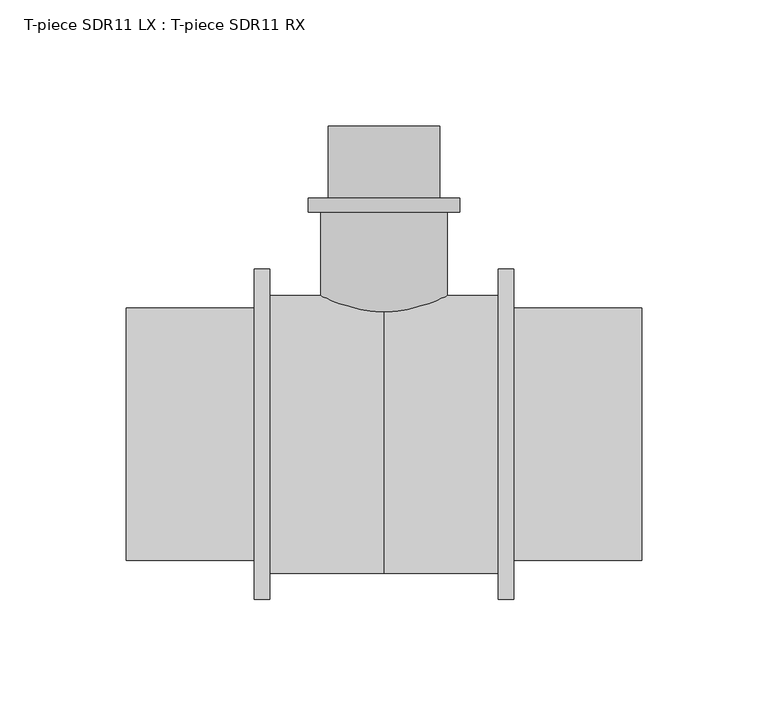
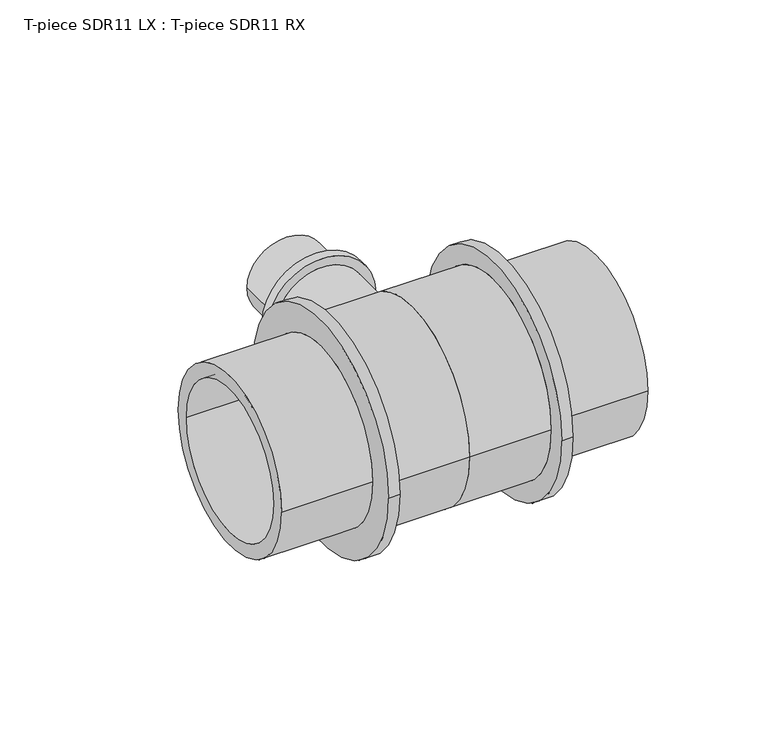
"""IFC4 building model written with IfcOpenShell, lengths in millimetres: pipe fitting geometry, T-piece SDR11 LX : T-piece SDR11 RX."""

import ifcopenshell
import ifcopenshell.guid

model = None  # the IFC model being written
_history = None  # IfcOwnerHistory: only IFC2X3 demands one
_inside = {}  # id of a spatial element -> (the spatial element, [elements in it])
_under = {}  # id of a project, library or spatial element -> (it, [spatial elements below it])
_declared = {}  # id of a project -> (the project, [libraries it declares])
_typed = {}  # id of a type object -> (the type object, [elements of that type])
_made_of = {}  # id of a material, layer set ... -> (it, [elements and type objects made of it])


def new_model(schema):
    """Start an empty IFC model of exactly this schema.

    Asked for "IFC4X3", IfcOpenShell would pick the latest addendum, in which some entities
    have other attributes; the version numbers below select the first issue.
    IFC2X3 requires an IfcOwnerHistory on every rooted entity: one is made here for all.
    """
    global model, _history
    if schema == "IFC4X3":
        model = ifcopenshell.file(schema_version=(4, 3, 0, 0))
    else:
        model = ifcopenshell.file(schema=schema)
    _inside.clear()
    _under.clear()
    _declared.clear()
    _typed.clear()
    _made_of.clear()
    _history = None
    if model.schema == "IFC2X3":
        org = make("IfcOrganization", Name="unknown")
        user = make(
            "IfcPersonAndOrganization",
            ThePerson=make("IfcPerson", FamilyName="unknown"),
            TheOrganization=org,
        )
        app = make(
            "IfcApplication",
            ApplicationDeveloper=org,
            Version="unknown",
            ApplicationFullName="unknown",
            ApplicationIdentifier="unknown",
        )
        _history = make(
            "IfcOwnerHistory",
            OwningUser=user,
            OwningApplication=app,
            ChangeAction="ADDED",
            CreationDate=0,
        )
    return model


def make(cls, **values):
    """One entity of the class cls with the attributes given. An attribute that is None is left unset."""
    return model.create_entity(
        cls, **{name: value for name, value in values.items() if value is not None}
    )


def rooted(cls, **values):
    """An entity with a GlobalId (a new one), such as an element, a storey or a relation."""
    return make(cls, GlobalId=ifcopenshell.guid.new(), OwnerHistory=_history, **values)


def si_unit(unit_type, name, prefix=None):
    """IfcSIUnit, for example si_unit("LENGTHUNIT", "METRE", prefix="MILLI")."""
    return make("IfcSIUnit", UnitType=unit_type, Prefix=prefix, Name=name)


def assignment(units):
    """IfcUnitAssignment: the units of a project."""
    return None if units is None else make("IfcUnitAssignment", Units=units)


def point(xyz):
    """IfcCartesianPoint."""
    return None if xyz is None else make("IfcCartesianPoint", Coordinates=xyz)


def direction(xyz):
    """IfcDirection."""
    return None if xyz is None else make("IfcDirection", DirectionRatios=xyz)


def frame(location, z_axis=None, x_axis=None):
    """IfcAxis2Placement3D, a coordinate frame: its origin and axes. An axis left out is left unset."""
    return make(
        "IfcAxis2Placement3D",
        Location=point(location),
        Axis=direction(z_axis),
        RefDirection=direction(x_axis),
    )


def origin():
    """The frame at (0, 0, 0) with its axes left unset."""
    return frame((0.0, 0.0, 0.0))


def place(relative_to, where):
    """IfcLocalPlacement: puts the frame where relative to a parent placement (None: the world)."""
    return make(
        "IfcLocalPlacement", PlacementRelTo=relative_to, RelativePlacement=where
    )


def context(
    kind, dimensions, precision=None, world=None, true_north=None, identifier=None
):
    """IfcGeometricRepresentationContext, for example the 3D "Model" context."""
    return make(
        "IfcGeometricRepresentationContext",
        ContextIdentifier=identifier,
        ContextType=kind,
        CoordinateSpaceDimension=dimensions,
        Precision=precision,
        WorldCoordinateSystem=world,
        TrueNorth=true_north,
    )


def project(units=None, contexts=None):
    """IfcProject with its units and contexts."""
    return rooted(
        "IfcProject",
        Name="project",
        RepresentationContexts=contexts,
        UnitsInContext=assignment(units),
    )


def spatial(cls, under=None, at=None, **own):
    """A site, building, storey or space (cls), placed at a placement, below another one or the project."""
    s = rooted(cls, ObjectPlacement=at, **own)
    if under is not None:
        _under.setdefault(under.id(), (under, []))[1].append(s)
    return s


def polyline(points):
    """IfcPolyline through the points."""
    return make("IfcPolyline", Points=[point(p) for p in points])


def circle_curve(where, radius):
    """IfcCircle in the frame where."""
    return make("IfcCircle", Position=where, Radius=radius)


def ellipse_curve(where, semi_axis1, semi_axis2):
    """IfcEllipse in the frame where."""
    return make(
        "IfcEllipse", Position=where, SemiAxis1=semi_axis1, SemiAxis2=semi_axis2
    )


def trimmed(basis, trim1, trim2, sense, master):
    """IfcTrimmedCurve: the piece of a basis curve between two trims."""
    return make(
        "IfcTrimmedCurve",
        BasisCurve=basis,
        Trim1=trim1,
        Trim2=trim2,
        SenseAgreement=sense,
        MasterRepresentation=master,
    )


def shape(context_of_items, identifier, shape_type, items):
    """IfcShapeRepresentation: the items that make up one representation, for example the "Body"."""
    return make(
        "IfcShapeRepresentation",
        ContextOfItems=context_of_items,
        RepresentationIdentifier=identifier,
        RepresentationType=shape_type,
        Items=items,
    )


def source(mapping_origin, context_of_items, identifier, shape_type, items):
    """IfcRepresentationMap: a shape defined once, which mapped items show again and again."""
    return make(
        "IfcRepresentationMap",
        MappingOrigin=mapping_origin,
        MappedRepresentation=shape(context_of_items, identifier, shape_type, items),
    )


def transform(
    local_origin,
    x_axis=None,
    y_axis=None,
    z_axis=None,
    scale=None,
    scale2=None,
    scale3=None,
    uniform=True,
):
    """IfcCartesianTransformationOperator3D, or its non-uniform kind. x_axis, y_axis, z_axis: its Axis1, 2, 3."""
    if uniform:
        return make(
            "IfcCartesianTransformationOperator3D",
            Axis1=direction(x_axis),
            Axis2=direction(y_axis),
            LocalOrigin=point(local_origin),
            Scale=scale,
            Axis3=direction(z_axis),
        )
    return make(
        "IfcCartesianTransformationOperator3DnonUniform",
        Axis1=direction(x_axis),
        Axis2=direction(y_axis),
        LocalOrigin=point(local_origin),
        Scale=scale,
        Axis3=direction(z_axis),
        Scale2=scale2,
        Scale3=scale3,
    )


def mapped(mapping_source, mapping_target):
    """IfcMappedItem: shows the shape of a source again, moved by a transform."""
    return make(
        "IfcMappedItem", MappingSource=mapping_source, MappingTarget=mapping_target
    )


def made_of(thing, what):
    """Note that an element or type object is made of a material, layer set ...; save() writes the relation."""
    if what is not None:
        _made_of.setdefault(what.id(), (what, []))[1].append(thing)
    return thing


def element(
    cls,
    number,
    at=None,
    inside=None,
    cuts=None,
    type_object=None,
    material=None,
    context=None,
    identifier="Body",
    shape_type=None,
    held_by="IfcProductDefinitionShape",
    body=None,
    shapes=None,
    **own,
):
    """One element of the class cls, such as IfcWall. Its Tag is "e" and its number.

    at: its placement. inside: the storey or other place that contains it. cuts: it is an
    opening in that element (IfcRelVoidsElement). A single representation is given by context,
    identifier, shape_type and body (its items); several are given by shapes. held_by: the class
    of the entity that holds the representations. save() writes the other relations.
    """
    e = rooted(cls, Tag="e%d" % number, ObjectPlacement=at, **own)
    if body is not None:
        shapes = [shape(context, identifier, shape_type, body)]
    if shapes is not None:
        e.Representation = make(held_by, Representations=shapes)
    if inside is not None:
        _inside.setdefault(inside.id(), (inside, []))[1].append(e)
    if cuts is not None:
        rooted(
            "IfcRelVoidsElement", RelatingBuildingElement=cuts, RelatedOpeningElement=e
        )
    if type_object is not None:
        _typed.setdefault(type_object.id(), (type_object, []))[1].append(e)
    return made_of(e, material)


def aggregate(whole, parts):
    """IfcRelAggregates: a whole, such as a stair, and the parts it consists of."""
    return rooted("IfcRelAggregates", RelatingObject=whole, RelatedObjects=parts)


def save(model, path):
    """Write the relations noted so far, then the file.

    IfcRelAggregates (storeys below a building ...), IfcRelContainedInSpatialStructure (elements
    in a storey), IfcRelDefinesByType, IfcRelAssociatesMaterial and IfcRelDeclares: one each for
    every whole, place, type object, material and project.
    """
    for whole, parts in _under.values():
        aggregate(whole, parts)
    for where, things in _inside.values():
        rooted(
            "IfcRelContainedInSpatialStructure",
            RelatedElements=things,
            RelatingStructure=where,
        )
    for kind, things in _typed.values():
        rooted("IfcRelDefinesByType", RelatedObjects=things, RelatingType=kind)
    for what, things in _made_of.values():
        rooted("IfcRelAssociatesMaterial", RelatedObjects=things, RelatingMaterial=what)
    for by, libraries in _declared.values():
        rooted("IfcRelDeclares", RelatingContext=by, RelatedDefinitions=libraries)
    model.write(path)


def plane_surface(at):
    """IfcPlane: the flat surface through the origin of the frame at, square to its z axis."""
    return make("IfcPlane", Position=at)


def cylinder_surface(at, radius):
    """IfcCylindricalSurface: all points at the distance radius from the z axis of the frame at."""
    return make("IfcCylindricalSurface", Position=at, Radius=radius)


def revolved_surface(curve, axis_point, axis_direction):
    """IfcSurfaceOfRevolution: the curve turned about the line through axis_point along axis_direction."""
    return make(
        "IfcSurfaceOfRevolution",
        SweptCurve=make("IfcArbitraryOpenProfileDef", ProfileType="CURVE", Curve=curve),
        AxisPosition=make("IfcAxis1Placement", Location=point(axis_point), Axis=direction(axis_direction)),
    )


def advanced_brep(points, edges, surfaces, faces):
    """IfcAdvancedBrep: a solid bounded by faces that lie on surfaces and meet in shared edges.

    An edge is (start, end): straight between two places in points (the first is 0);
    or (start, end, curve); or (start, end, curve, False) where it runs against its curve.
    A face is (place in surfaces, loops), or (place, loops, False) where it looks against
    its surface's normal. A loop lists edges by number (the first is 1), with a minus sign
    where the edge is run from its end to its start. The first loop is the outer one.
    """
    corners = [point(p) for p in points]
    vertices = [make("IfcVertexPoint", VertexGeometry=c) for c in corners]
    made = []
    for start, end, *more in edges:
        made.append(
            make(
                "IfcEdgeCurve",
                EdgeStart=vertices[start],
                EdgeEnd=vertices[end],
                EdgeGeometry=more[0] if more else make("IfcPolyline", Points=[corners[start], corners[end]]),
                SameSense=more[1] if len(more) > 1 else True,
            )
        )
    hull = []
    for where, loops, *sense in faces:
        bounds = []
        for j, loop in enumerate(loops):
            ring = [make("IfcOrientedEdge", EdgeElement=made[abs(k) - 1], Orientation=k > 0) for k in loop]
            bounds.append(
                make(
                    "IfcFaceOuterBound" if j == 0 else "IfcFaceBound",
                    Bound=make("IfcEdgeLoop", EdgeList=ring),
                    Orientation=True,
                )
            )
        hull.append(make("IfcAdvancedFace", Bounds=bounds, FaceSurface=surfaces[where], SameSense=sense[0] if sense else True))
    return make("IfcAdvancedBrep", Outer=make("IfcClosedShell", CfsFaces=hull))


def t_piece_sdr11_lx_t_piece_sdr11_rx_bf9e8c16(model_context):
    return source(origin(), model_context, "Body", "AdvancedBrep", [
        advanced_brep(
        [(25.0, 1.1538304, 0.0), (-25.0, 1.1538304, 0.0), (-25.0, 88.0, 0.0), (25.0, 88.0, 0.0), (17.6, 122.0, 0.0), (-17.6, 122.0, 0.0), (-17.6, 0.0, 0.0), (17.6, 0.0, 0.0), (22.1, 93.5, 0.0), (-22.1, 93.5, 0.0), (-22.1, 122.0, 0.0), (22.1, 122.0, 0.0), (30.05, 88.0, 0.0), (-30.05, 88.0, 0.0), (-30.05, 93.5, 0.0), (30.05, 93.5, 0.0)],
        [
            (0, 1, circle_curve(frame((0.0, 1.1538304, 0.0), z_axis=(0.0, 1.0, 0.0), x_axis=(-1.0, 0.0, 0.0)), 25.0)),
            (1, 2),
            (2, 3, circle_curve(frame((0.0, 88.0, 0.0), z_axis=(0.0, -1.0, 0.0), x_axis=(-1.0, 0.0, 0.0)), 25.0)),
            (3, 0),
            (4, 5, circle_curve(frame((0.0, 122.0, 0.0), z_axis=(0.0, 1.0, 0.0), x_axis=(-1.0, 0.0, 0.0)), 17.6)),
            (5, 6),
            (6, 7, circle_curve(frame((0.0, 0.0, 0.0), z_axis=(0.0, -1.0, 0.0), x_axis=(-1.0, 0.0, 0.0)), 17.6)),
            (7, 4),
            (8, 9, circle_curve(frame((0.0, 93.5, 0.0), z_axis=(0.0, 1.0, 0.0), x_axis=(-1.0, 0.0, 0.0)), 22.1)),
            (9, 10),
            (10, 11, circle_curve(frame((0.0, 122.0, 0.0), z_axis=(0.0, -1.0, 0.0), x_axis=(-1.0, 0.0, 0.0)), 22.1)),
            (11, 8),
            (12, 13, circle_curve(frame((0.0, 88.0, 0.0), z_axis=(0.0, 1.0, 0.0), x_axis=(-1.0, 0.0, 0.0)), 30.05)),
            (13, 14),
            (14, 15, circle_curve(frame((0.0, 93.5, 0.0), z_axis=(0.0, -1.0, 0.0), x_axis=(-1.0, 0.0, 0.0)), 30.05)),
            (15, 12),
            (12, 13, circle_curve(frame((0.0, 88.0, 0.0), z_axis=(0.0, -1.0, 0.0), x_axis=(1.0, 0.0, 0.0)), 30.05)),
            (2, 3, circle_curve(frame((0.0, 88.0, 0.0), z_axis=(0.0, 1.0, 0.0), x_axis=(1.0, 0.0, 0.0)), 25.0)),
            (1, 0, circle_curve(frame((0.0, 1.1538304, 0.0), z_axis=(0.0, 1.0, 0.0), x_axis=(1.0, 0.0, 0.0)), 25.0)),
            (5, 4, circle_curve(frame((0.0, 122.0, 0.0), z_axis=(0.0, 1.0, 0.0), x_axis=(1.0, 0.0, 0.0)), 17.6)),
            (7, 6, circle_curve(frame((0.0, 0.0, 0.0), z_axis=(0.0, -1.0, 0.0), x_axis=(1.0, 0.0, 0.0)), 17.6)),
            (10, 11, circle_curve(frame((0.0, 122.0, 0.0), z_axis=(0.0, 1.0, 0.0), x_axis=(1.0, 0.0, 0.0)), 22.1)),
            (9, 8, circle_curve(frame((0.0, 93.5, 0.0), z_axis=(0.0, 1.0, 0.0), x_axis=(1.0, 0.0, 0.0)), 22.1)),
            (14, 15, circle_curve(frame((0.0, 93.5, 0.0), z_axis=(0.0, 1.0, 0.0), x_axis=(1.0, 0.0, 0.0)), 30.05)),
            (6, 1, circle_curve(frame((-12.8462802, 54.7941799, 0.0), z_axis=(0.0, 0.0, -1.0), x_axis=(0.0, -1.0, 0.0)), 55.0)),
            (0, 7, circle_curve(frame((12.8462802, 54.7941799, 0.0), z_axis=(0.0, 0.0, -1.0), x_axis=(0.0, -1.0, 0.0)), 55.0)),
        ],
        [
            cylinder_surface(frame((0.0, 0.0, 0.0), z_axis=(0.0, -1.0, 0.0), x_axis=(-1.0, 0.0, 0.0)), 25.0),
            revolved_surface(polyline([(-17.6, 0.0, 0.0), (-17.6, 122.0, 0.0)]), (0.0, 0.0, 0.0), (0.0, -1.0, 0.0)),
            cylinder_surface(frame((0.0, 0.0, 0.0), z_axis=(0.0, -1.0, 0.0), x_axis=(-1.0, 0.0, 0.0)), 22.1),
            cylinder_surface(frame((0.0, 0.0, 0.0), z_axis=(0.0, -1.0, 0.0), x_axis=(-1.0, 0.0, 0.0)), 30.05),
            plane_surface(frame((0.0, 88.0, 0.0), z_axis=(0.0, -1.0, 0.0), x_axis=(1.0, 0.0, 0.0))),
            cylinder_surface(frame((0.0, 0.0, 0.0), z_axis=(0.0, -1.0, 0.0), x_axis=(1.0, 0.0, 0.0)), 25.0),
            revolved_surface(polyline([(17.6, 0.0, 0.0), (17.6, 122.0, 0.0)]), (0.0, 0.0, 0.0), (0.0, -1.0, 0.0)),
            plane_surface(frame((0.0, 122.0, 0.0), z_axis=(0.0, 1.0, 0.0), x_axis=(1.0, 0.0, 0.0))),
            cylinder_surface(frame((0.0, 0.0, 0.0), z_axis=(0.0, -1.0, 0.0), x_axis=(1.0, 0.0, 0.0)), 22.1),
            plane_surface(frame((0.0, 93.5, 0.0), z_axis=(0.0, 1.0, 0.0), x_axis=(1.0, 0.0, 0.0))),
            cylinder_surface(frame((0.0, 0.0, 0.0), z_axis=(0.0, -1.0, 0.0), x_axis=(1.0, 0.0, 0.0)), 30.05),
            revolved_surface(trimmed(ellipse_curve(frame((-12.8462802, 54.7941799, 0.0), z_axis=(0.0, 0.0, 1.0), x_axis=(0.0, -1.0, 0.0)), 55.0, 55.0), [point((-25.0, 1.1538304, 0.0))], [point((-17.6, 0.0, 0.0))], True, "CARTESIAN"), (0.0, 0.0, 0.0), (0.0, -1.0, 0.0)),
            revolved_surface(trimmed(ellipse_curve(frame((12.8462802, 54.7941799, 0.0), z_axis=(0.0, 0.0, -1.0), x_axis=(0.0, -1.0, 0.0)), 55.0, 55.0), [point((25.0, 1.1538304, 0.0))], [point((17.6, 0.0, 0.0))], True, "CARTESIAN"), (0.0, 0.0, 0.0), (0.0, -1.0, 0.0)),
        ],
        [
            (0, [[1, 2, 3, 4]]),
            (1, [[5, 6, 7, 8]]),
            (2, [[9, 10, 11, 12]]),
            (3, [[13, 14, 15, 16]]),
            (4, [[17, -13], [18, -3]]),
            (5, [[19, -4, -18, -2]]),
            (6, [[20, -8, 21, -6]]),
            (7, [[22, -11], [-20, -5]]),
            (8, [[23, -12, -22, -10]]),
            (9, [[24, -15], [-23, -9]]),
            (10, [[-17, -16, -24, -14]]),
            (11, [[-7, 25, -1, 26]]),
            (12, [[-21, -26, -19, -25]]),
        ],
    ),
        advanced_brep(
        [(45.2, 55.0, 0.0), (45.2, -55.0, 0.0), (0.0, -55.0, 0.0), (0.0, 55.0, 0.0), (0.0, 42.0, 0.0), (0.0, -42.0, 0.0), (102.0, -42.0, 0.0), (102.0, 42.0, 0.0), (102.0, 49.9, 0.0), (102.0, -49.9, 0.0), (51.4, -49.9, 0.0), (51.4, 49.9, 0.0), (51.4, 65.45, 0.0), (51.4, -65.45, 0.0), (45.2, -65.45, 0.0), (45.2, 65.45, 0.0)],
        [
            (0, 1, circle_curve(frame((45.2, 0.0, 0.0), z_axis=(-1.0, 0.0, 0.0), x_axis=(0.0, -1.0, 0.0)), 55.0)),
            (1, 2),
            (2, 3, circle_curve(frame((0.0, 0.0, 0.0), z_axis=(1.0, 0.0, 0.0), x_axis=(0.0, -1.0, 0.0)), 55.0)),
            (3, 0),
            (4, 5, circle_curve(frame((0.0, 0.0, 0.0), z_axis=(-1.0, 0.0, 0.0), x_axis=(0.0, -1.0, 0.0)), 42.0)),
            (5, 6),
            (6, 7, circle_curve(frame((102.0, 0.0, 0.0), z_axis=(1.0, 0.0, 0.0), x_axis=(0.0, -1.0, 0.0)), 42.0)),
            (7, 4),
            (8, 9, circle_curve(frame((102.0, 0.0, 0.0), z_axis=(-1.0, 0.0, 0.0), x_axis=(0.0, -1.0, 0.0)), 49.9)),
            (9, 10),
            (10, 11, circle_curve(frame((51.4, 0.0, 0.0), z_axis=(1.0, 0.0, 0.0), x_axis=(0.0, -1.0, 0.0)), 49.9)),
            (11, 8),
            (12, 13, circle_curve(frame((51.4, 0.0, 0.0), z_axis=(-1.0, 0.0, 0.0), x_axis=(0.0, -1.0, 0.0)), 65.45)),
            (13, 14),
            (14, 15, circle_curve(frame((45.2, 0.0, 0.0), z_axis=(1.0, 0.0, 0.0), x_axis=(0.0, -1.0, 0.0)), 65.45)),
            (15, 12),
            (14, 15, circle_curve(frame((45.2, 0.0, 0.0), z_axis=(-1.0, 0.0, 0.0), x_axis=(0.0, 1.0, 0.0)), 65.45)),
            (0, 1, circle_curve(frame((45.2, 0.0, 0.0), z_axis=(1.0, 0.0, 0.0), x_axis=(0.0, 1.0, 0.0)), 55.0)),
            (3, 2, circle_curve(frame((0.0, 0.0, 0.0), z_axis=(1.0, 0.0, 0.0), x_axis=(0.0, 1.0, 0.0)), 55.0)),
            (4, 5, circle_curve(frame((0.0, 0.0, 0.0), z_axis=(1.0, 0.0, 0.0), x_axis=(0.0, 1.0, 0.0)), 42.0)),
            (7, 6, circle_curve(frame((102.0, 0.0, 0.0), z_axis=(1.0, 0.0, 0.0), x_axis=(0.0, 1.0, 0.0)), 42.0)),
            (8, 9, circle_curve(frame((102.0, 0.0, 0.0), z_axis=(1.0, 0.0, 0.0), x_axis=(0.0, 1.0, 0.0)), 49.9)),
            (11, 10, circle_curve(frame((51.4, 0.0, 0.0), z_axis=(1.0, 0.0, 0.0), x_axis=(0.0, 1.0, 0.0)), 49.9)),
            (12, 13, circle_curve(frame((51.4, 0.0, 0.0), z_axis=(1.0, 0.0, 0.0), x_axis=(0.0, 1.0, 0.0)), 65.45)),
        ],
        [
            cylinder_surface(frame((0.0, 0.0, 0.0), z_axis=(1.0, 0.0, 0.0), x_axis=(0.0, -1.0, 0.0)), 55.0),
            revolved_surface(polyline([(102.0, -42.0, 0.0), (0.0, -42.0, 0.0)]), (0.0, 0.0, 0.0), (1.0, 0.0, 0.0)),
            cylinder_surface(frame((0.0, 0.0, 0.0), z_axis=(1.0, 0.0, 0.0), x_axis=(0.0, -1.0, 0.0)), 49.9),
            cylinder_surface(frame((0.0, 0.0, 0.0), z_axis=(1.0, 0.0, 0.0), x_axis=(0.0, -1.0, 0.0)), 65.45),
            plane_surface(frame((45.2, 0.0, 0.0), z_axis=(-1.0, 0.0, 0.0), x_axis=(0.0, 1.0, 0.0))),
            cylinder_surface(frame((0.0, 0.0, 0.0), z_axis=(1.0, 0.0, 0.0), x_axis=(0.0, 1.0, 0.0)), 55.0),
            plane_surface(frame((0.0, 0.0, 0.0), z_axis=(-1.0, 0.0, 0.0), x_axis=(0.0, 1.0, 0.0))),
            revolved_surface(polyline([(102.0, 42.0, 0.0), (0.0, 42.0, 0.0)]), (0.0, 0.0, 0.0), (1.0, 0.0, 0.0)),
            plane_surface(frame((102.0, 0.0, 0.0), z_axis=(1.0, 0.0, 0.0), x_axis=(0.0, 1.0, 0.0))),
            cylinder_surface(frame((0.0, 0.0, 0.0), z_axis=(1.0, 0.0, 0.0), x_axis=(0.0, 1.0, 0.0)), 49.9),
            plane_surface(frame((51.4, 0.0, 0.0), z_axis=(1.0, 0.0, 0.0), x_axis=(0.0, 1.0, 0.0))),
            cylinder_surface(frame((0.0, 0.0, 0.0), z_axis=(1.0, 0.0, 0.0), x_axis=(0.0, 1.0, 0.0)), 65.45),
        ],
        [
            (0, [[1, 2, 3, 4]]),
            (1, [[5, 6, 7, 8]]),
            (2, [[9, 10, 11, 12]]),
            (3, [[13, 14, 15, 16]]),
            (4, [[17, -15], [18, -1]]),
            (5, [[-18, -4, 19, -2]]),
            (6, [[-19, -3], [20, -5]]),
            (7, [[-20, -8, 21, -6]]),
            (8, [[22, -9], [-21, -7]]),
            (9, [[-22, -12, 23, -10]]),
            (10, [[24, -13], [-23, -11]]),
            (11, [[-24, -16, -17, -14]]),
        ],
    ),
        advanced_brep(
        [(0.0, 55.0, 0.0), (0.0, -55.0, 0.0), (-45.2, -55.0, 0.0), (-45.2, 55.0, 0.0), (-102.0, 42.0, 0.0), (-102.0, -42.0, 0.0), (0.0, -42.0, 0.0), (0.0, 42.0, 0.0), (-51.4, 49.9, 0.0), (-51.4, -49.9, 0.0), (-102.0, -49.9, 0.0), (-102.0, 49.9, 0.0), (-45.2, 65.45, 0.0), (-45.2, -65.45, 0.0), (-51.4, -65.45, 0.0), (-51.4, 65.45, 0.0)],
        [
            (0, 1, circle_curve(frame((0.0, 0.0, 0.0), z_axis=(-1.0, 0.0, 0.0), x_axis=(0.0, -1.0, 0.0)), 55.0)),
            (1, 2),
            (2, 3, circle_curve(frame((-45.2, 0.0, 0.0), z_axis=(1.0, 0.0, 0.0), x_axis=(0.0, -1.0, 0.0)), 55.0)),
            (3, 0),
            (4, 5, circle_curve(frame((-102.0, 0.0, 0.0), z_axis=(-1.0, 0.0, 0.0), x_axis=(0.0, -1.0, 0.0)), 42.0)),
            (5, 6),
            (6, 7, circle_curve(frame((0.0, 0.0, 0.0), z_axis=(1.0, 0.0, 0.0), x_axis=(0.0, -1.0, 0.0)), 42.0)),
            (7, 4),
            (8, 9, circle_curve(frame((-51.4, 0.0, 0.0), z_axis=(-1.0, 0.0, 0.0), x_axis=(0.0, -1.0, 0.0)), 49.9)),
            (9, 10),
            (10, 11, circle_curve(frame((-102.0, 0.0, 0.0), z_axis=(1.0, 0.0, 0.0), x_axis=(0.0, -1.0, 0.0)), 49.9)),
            (11, 8),
            (12, 13, circle_curve(frame((-45.2, 0.0, 0.0), z_axis=(-1.0, 0.0, 0.0), x_axis=(0.0, -1.0, 0.0)), 65.45)),
            (13, 14),
            (14, 15, circle_curve(frame((-51.4, 0.0, 0.0), z_axis=(1.0, 0.0, 0.0), x_axis=(0.0, -1.0, 0.0)), 65.45)),
            (15, 12),
            (12, 13, circle_curve(frame((-45.2, 0.0, 0.0), z_axis=(1.0, 0.0, 0.0), x_axis=(0.0, 1.0, 0.0)), 65.45)),
            (2, 3, circle_curve(frame((-45.2, 0.0, 0.0), z_axis=(-1.0, 0.0, 0.0), x_axis=(0.0, 1.0, 0.0)), 55.0)),
            (1, 0, circle_curve(frame((0.0, 0.0, 0.0), z_axis=(-1.0, 0.0, 0.0), x_axis=(0.0, 1.0, 0.0)), 55.0)),
            (6, 7, circle_curve(frame((0.0, 0.0, 0.0), z_axis=(-1.0, 0.0, 0.0), x_axis=(0.0, 1.0, 0.0)), 42.0)),
            (5, 4, circle_curve(frame((-102.0, 0.0, 0.0), z_axis=(-1.0, 0.0, 0.0), x_axis=(0.0, 1.0, 0.0)), 42.0)),
            (10, 11, circle_curve(frame((-102.0, 0.0, 0.0), z_axis=(-1.0, 0.0, 0.0), x_axis=(0.0, 1.0, 0.0)), 49.9)),
            (9, 8, circle_curve(frame((-51.4, 0.0, 0.0), z_axis=(-1.0, 0.0, 0.0), x_axis=(0.0, 1.0, 0.0)), 49.9)),
            (14, 15, circle_curve(frame((-51.4, 0.0, 0.0), z_axis=(-1.0, 0.0, 0.0), x_axis=(0.0, 1.0, 0.0)), 65.45)),
        ],
        [
            cylinder_surface(frame((0.0, 0.0, 0.0), z_axis=(1.0, 0.0, 0.0), x_axis=(0.0, -1.0, 0.0)), 55.0),
            revolved_surface(polyline([(0.0, -42.0, 0.0), (-102.0, -42.0, 0.0)]), (0.0, 0.0, 0.0), (1.0, 0.0, 0.0)),
            cylinder_surface(frame((0.0, 0.0, 0.0), z_axis=(1.0, 0.0, 0.0), x_axis=(0.0, -1.0, 0.0)), 49.9),
            cylinder_surface(frame((0.0, 0.0, 0.0), z_axis=(1.0, 0.0, 0.0), x_axis=(0.0, -1.0, 0.0)), 65.45),
            plane_surface(frame((-45.2, 0.0, 0.0), z_axis=(1.0, 0.0, 0.0), x_axis=(0.0, 1.0, 0.0))),
            cylinder_surface(frame((0.0, 0.0, 0.0), z_axis=(1.0, 0.0, 0.0), x_axis=(0.0, 1.0, 0.0)), 55.0),
            plane_surface(frame((0.0, 0.0, 0.0), z_axis=(1.0, 0.0, 0.0), x_axis=(0.0, 1.0, 0.0))),
            revolved_surface(polyline([(0.0, 42.0, 0.0), (-102.0, 42.0, 0.0)]), (0.0, 0.0, 0.0), (1.0, 0.0, 0.0)),
            plane_surface(frame((-102.0, 0.0, 0.0), z_axis=(-1.0, 0.0, 0.0), x_axis=(0.0, 1.0, 0.0))),
            cylinder_surface(frame((0.0, 0.0, 0.0), z_axis=(1.0, 0.0, 0.0), x_axis=(0.0, 1.0, 0.0)), 49.9),
            plane_surface(frame((-51.4, 0.0, 0.0), z_axis=(-1.0, 0.0, 0.0), x_axis=(0.0, 1.0, 0.0))),
            cylinder_surface(frame((0.0, 0.0, 0.0), z_axis=(1.0, 0.0, 0.0), x_axis=(0.0, 1.0, 0.0)), 65.45),
        ],
        [
            (0, [[1, 2, 3, 4]]),
            (1, [[5, 6, 7, 8]]),
            (2, [[9, 10, 11, 12]]),
            (3, [[13, 14, 15, 16]]),
            (4, [[17, -13], [18, -3]]),
            (5, [[19, -4, -18, -2]]),
            (6, [[-19, -1], [20, -7]]),
            (7, [[21, -8, -20, -6]]),
            (8, [[22, -11], [-21, -5]]),
            (9, [[23, -12, -22, -10]]),
            (10, [[24, -15], [-23, -9]]),
            (11, [[-17, -16, -24, -14]]),
        ],
    ),
    ])


if __name__ == "__main__":
    model = new_model("IFC4")
    model_context = context("Model", 3, world=origin())
    ifc_project = project(units=[si_unit("LENGTHUNIT", "METRE", prefix="MILLI")], contexts=[model_context])
    site = spatial("IfcSite", under=ifc_project)
    building = spatial("IfcBuilding", under=site)
    placement = place(None, origin())
    t_piece_sdr11_lx_t_piece_sdr11_rx_shape = t_piece_sdr11_lx_t_piece_sdr11_rx_bf9e8c16(model_context)
    element("IfcPipeFitting", 1, ObjectType="T-piece SDR11 LX : T-piece SDR11 RX", at=placement, inside=building, context=model_context, shape_type="MappedRepresentation", body=[
        mapped(t_piece_sdr11_lx_t_piece_sdr11_rx_shape, transform((0.0, 0.0, 0.0), x_axis=(1.0, 0.0, 0.0), y_axis=(0.0, 1.0, 0.0), z_axis=(0.0, 0.0, 1.0))),
    ])
    save(model, "model.ifc")
